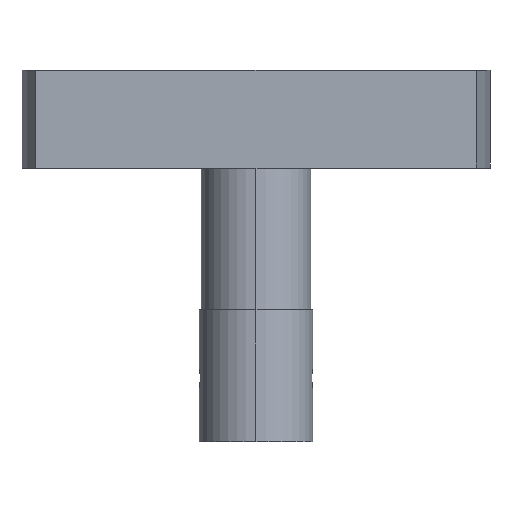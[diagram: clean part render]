
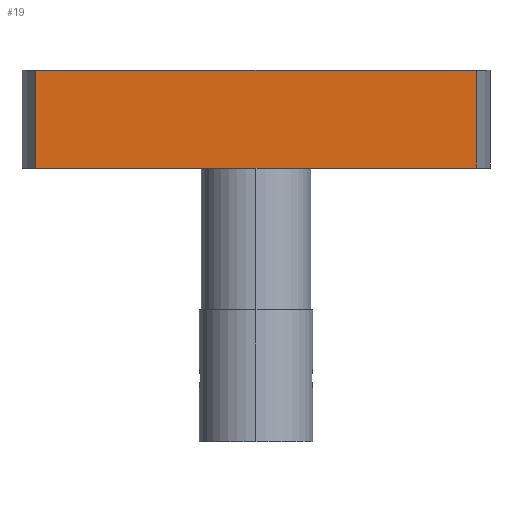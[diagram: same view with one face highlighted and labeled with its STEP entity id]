
A CAD part, left-side view. The second image highlights one B-rep face of the part: STEP entity #19.
In plain terms, the highlighted planar face has unit normal (-1, 0, 0).
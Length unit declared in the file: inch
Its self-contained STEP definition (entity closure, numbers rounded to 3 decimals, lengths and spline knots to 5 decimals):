
#19 = ADVANCED_FACE ( 'NONE', ( #1334 ), #112, .T. ) ;
#62 = EDGE_LOOP ( 'NONE', ( #2113, #1558, #1018, #2180 ) ) ;
#112 = PLANE ( 'NONE',  #840 ) ;
#139 = DIRECTION ( 'NONE',  ( 0., 0., 1. ) ) ;
#178 = CARTESIAN_POINT ( 'NONE',  ( -0.0825, 0.22537, 0. ) ) ;
#247 = LINE ( 'NONE', #178, #1037 ) ;
#292 = CARTESIAN_POINT ( 'NONE',  ( -0.0825, -0.22537, 0. ) ) ;
#386 = EDGE_CURVE ( 'NONE', #1500, #1447, #1885, .T. ) ;
#448 = CARTESIAN_POINT ( 'NONE',  ( -0.0825, 0.22537, -0.78561 ) ) ;
#701 = VECTOR ( 'NONE', #139, 39.37008 ) ;
#761 = LINE ( 'NONE', #448, #1138 ) ;
#805 = DIRECTION ( 'NONE',  ( -1., 0., 0. ) ) ;
#813 = DIRECTION ( 'NONE',  ( 0., 0., 1. ) ) ;
#840 = AXIS2_PLACEMENT_3D ( 'NONE', #1977, #805, #1818 ) ;
#870 = CARTESIAN_POINT ( 'NONE',  ( -0.0825, 0.22537, -0.1 ) ) ;
#1018 = ORIENTED_EDGE ( 'NONE', *, *, #2020, .F. ) ;
#1037 = VECTOR ( 'NONE', #1717, 39.37008 ) ;
#1136 = LINE ( 'NONE', #1690, #701 ) ;
#1138 = VECTOR ( 'NONE', #813, 39.37008 ) ;
#1154 = VERTEX_POINT ( 'NONE', #2088 ) ;
#1334 = FACE_OUTER_BOUND ( 'NONE', #62, .T. ) ;
#1388 = VERTEX_POINT ( 'NONE', #292 ) ;
#1447 = VERTEX_POINT ( 'NONE', #1999 ) ;
#1500 = VERTEX_POINT ( 'NONE', #2188 ) ;
#1558 = ORIENTED_EDGE ( 'NONE', *, *, #1617, .F. ) ;
#1617 = EDGE_CURVE ( 'NONE', #1154, #1388, #247, .T. ) ;
#1690 = CARTESIAN_POINT ( 'NONE',  ( -0.0825, -0.22537, -0.78561 ) ) ;
#1717 = DIRECTION ( 'NONE',  ( 0., -1., 0. ) ) ;
#1818 = DIRECTION ( 'NONE',  ( 0., 0., 1. ) ) ;
#1885 = LINE ( 'NONE', #870, #2159 ) ;
#1977 = CARTESIAN_POINT ( 'NONE',  ( -0.0825, 0.22537, -0.78561 ) ) ;
#1999 = CARTESIAN_POINT ( 'NONE',  ( -0.0825, 0.22537, -0.1 ) ) ;
#2020 = EDGE_CURVE ( 'NONE', #1447, #1154, #761, .T. ) ;
#2056 = DIRECTION ( 'NONE',  ( 0., 1., 0. ) ) ;
#2088 = CARTESIAN_POINT ( 'NONE',  ( -0.0825, 0.22537, 0. ) ) ;
#2099 = EDGE_CURVE ( 'NONE', #1500, #1388, #1136, .T. ) ;
#2113 = ORIENTED_EDGE ( 'NONE', *, *, #2099, .T. ) ;
#2159 = VECTOR ( 'NONE', #2056, 39.37008 ) ;
#2180 = ORIENTED_EDGE ( 'NONE', *, *, #386, .F. ) ;
#2188 = CARTESIAN_POINT ( 'NONE',  ( -0.0825, -0.22537, -0.1 ) ) ;
